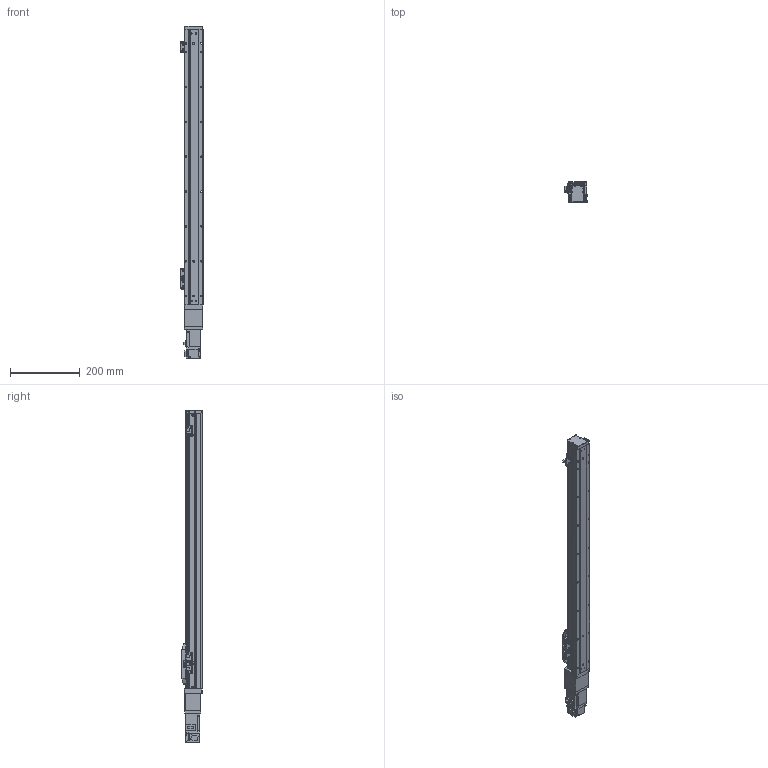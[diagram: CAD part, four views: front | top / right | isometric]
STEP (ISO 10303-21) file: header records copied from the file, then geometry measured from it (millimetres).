
FILE_DESCRIPTION (( 'STEP AP203' ), '1' );
FILE_NAME ('GTH5-650-BC-M10-C4.step', '2022-09-23T00:40:49', ( '微软用户' ), ( '微软中国' ), 'SwSTEP 2.0', 'SolidWorks 2020', '' );
FILE_SCHEMA (( 'CONFIG_CONTROL_DESIGN' ));
Length unit declared in the file: millimetre
Products named in the file (20): BTH-M3X5X6; GBT96.1-2002 3×0.8; CTHA60-006-2_CTHA60-006-1; GTH50-001_650; GTH50-024; HG-KR13; GBT 70.1-M4×16; GBT 70.1-M2.5×6; GTH5-650-BC-M10-C4; GTH50-003; GTH50-028; GTH50-006; GTH50-013; GTH50-022-1; GTH50-004; GTH50-023; CTHA60-027; GBT 70.3-M3℅6; GBT 70.1-M3℅6; CTHA60-013
Assembly tree (60 placements, depth 2):
  GTH5-650-BC-M10-C4
    GTH50-006
    GTH50-004
    GBT 70.3-M3℅6  x6
    BTH-M3X5X6  x8
    GTH50-001_650
    GBT 70.1-M4×16  x8
    GTH50-003
    GTH50-013
    GTH50-023  x3
    GBT 70.1-M3℅6  x12
    GBT96.1-2002 3×0.8  x6
    GTH50-024  x3
    GBT 70.1-M2.5×6  x2
    GTH50-028  x2
    GTH50-022-1
    CTHA60-027
    CTHA60-013
    CTHA60-006-2_CTHA60-006-1
    HG-KR13
Bounding box: 63.8 x 60 x 952.6 mm (x, y, z)
Volume: 1975571.8 mm3; surface area: 309252.2 mm2
Topology: 62 solids, 62 shells, 2057 faces, 4728 edges, 2886 vertices
Faces by surface type: plane 1105, cylinder 551, cone 235, torus 158, sphere 8
Entity records: 34403 total; most frequent: DIRECTION 5563, CARTESIAN_POINT 5439, ORIENTED_EDGE 5142, EDGE_CURVE 2571, AXIS2_PLACEMENT_3D 1916, LINE 1731, VECTOR 1731, VERTEX_POINT 1626
